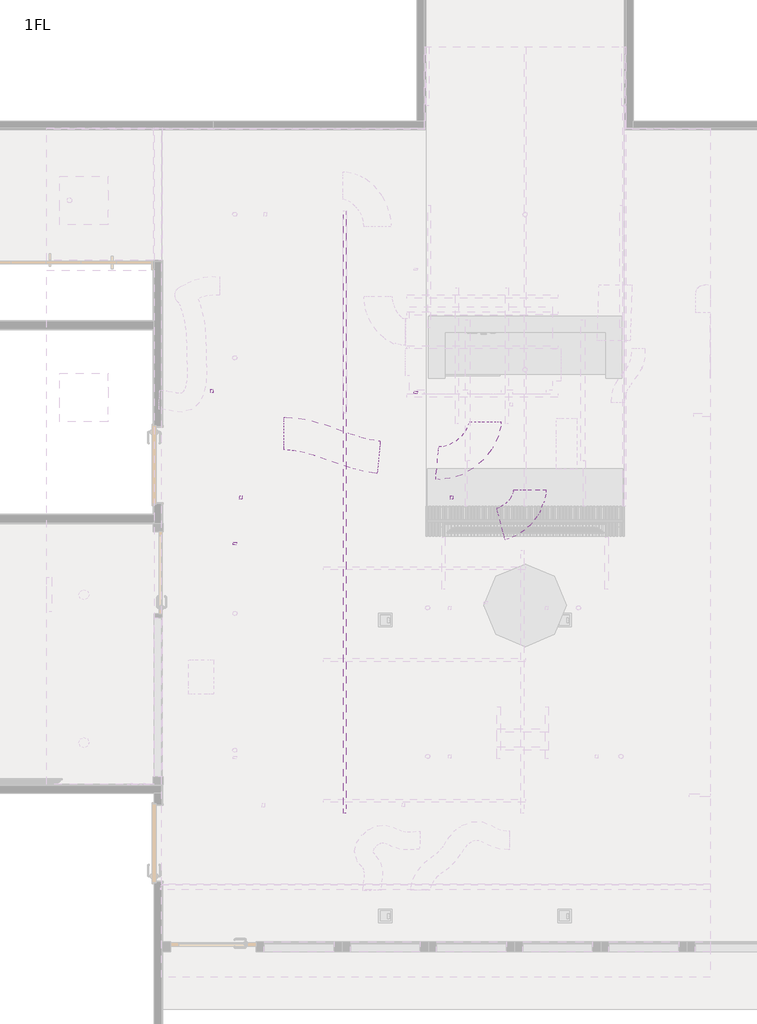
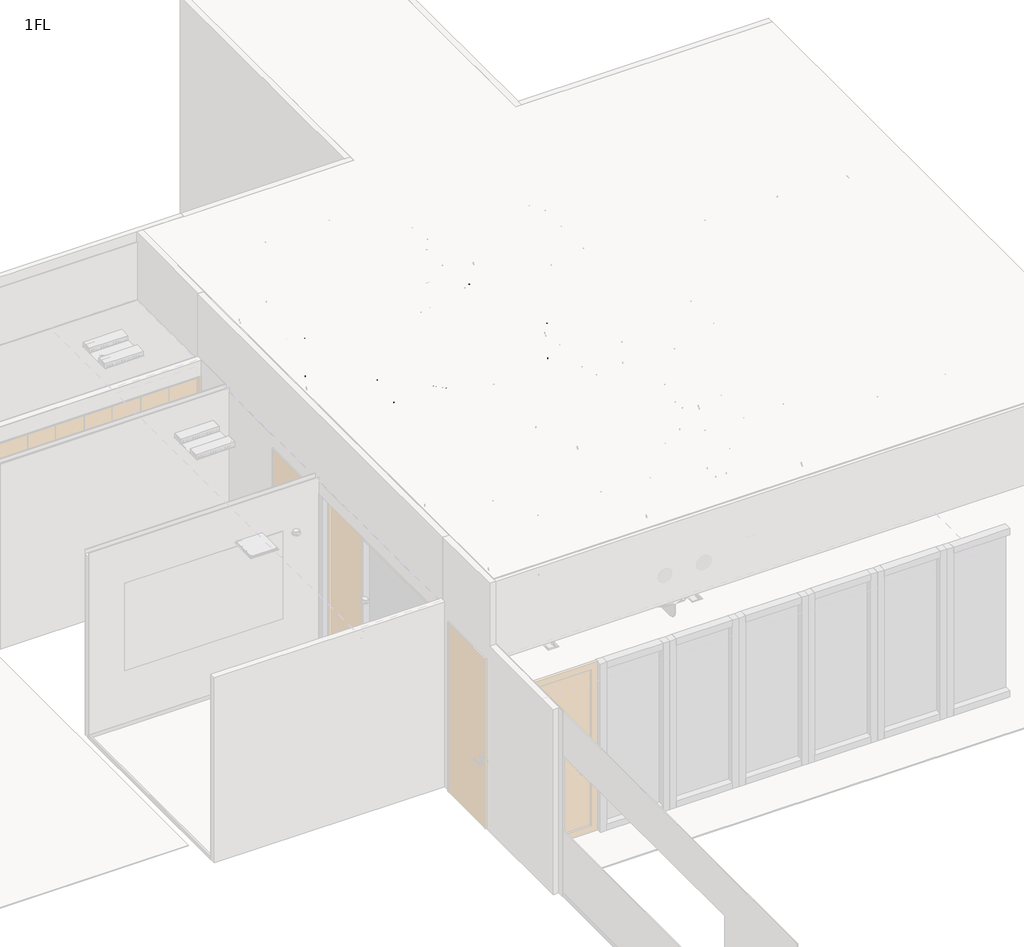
# One storey, part 10 of 13: 5 proxies, 3 duct segments, 1 light fixture, 1 switching device.
"""IFC4 building model written with IfcOpenShell, lengths in millimetres."""

from ifc_helpers import new_model, si_unit, frame, origin, place, context, project, spatial, circle_curve, ellipse_curve, transform, mapped, element, save
from ifc_brep_helpers import plane_surface, cylinder_surface, advanced_brep
from components import duct_hanger_68520e83, duct_hanger_cd86e1ba, duct_hanger_4be9b570, duct_hanger_ef9378de, spot_light_spot_light_b98040ed, outlet_02_outlet_b875fcc4

model = new_model("IFC4")

# Units and contexts
model_context = context("Model", 3, world=origin())
ifc_project = project(units=[si_unit("LENGTHUNIT", "METRE", prefix="MILLI")], contexts=[model_context])

# Site, building, storey
site = spatial("IfcSite", under=ifc_project)
building = spatial("IfcBuilding", under=site)
storey = spatial("IfcBuildingStorey", under=building, Name="1FL", Elevation=500.0)

# Proxies
placement = place(None, origin())
duct_hanger_shape = duct_hanger_68520e83(model_context)
element("IfcBuildingElementProxy", 1, Name="Duct-hanger : Φ44", ObjectType="Duct-hanger : Φ44", at=placement, inside=storey, context=model_context, shape_type="MappedRepresentation", body=[
    mapped(duct_hanger_shape, transform((15125.2199289, 586.3863748, 4470.0), x_axis=(1.0, 0.0, 0.0), y_axis=(0.0, 1.0, 0.0), z_axis=(0.0, 0.0, 1.0))),
])
duct_hanger_2_shape = duct_hanger_cd86e1ba(model_context)
element("IfcBuildingElementProxy", 2, Name="Duct-hanger : Φ44", ObjectType="Duct-hanger : Φ44", at=placement, inside=storey, context=model_context, shape_type="MappedRepresentation", body=[
    mapped(duct_hanger_2_shape, transform((12553.3894845, 586.3863748, 4470.0), x_axis=(1.0, 0.0, 0.0), y_axis=(0.0, 1.0, 0.0), z_axis=(0.0, 0.0, 1.0))),
])
element("IfcBuildingElementProxy", 3, Name="Duct-hanger : Φ44", ObjectType="Duct-hanger : Φ44", at=placement, inside=storey, context=model_context, shape_type="MappedRepresentation", body=[
    mapped(duct_hanger_2_shape, transform((12481.3994332, 28.8857644, 4470.0), x_axis=(0.0, 1.0, 0.0), y_axis=(-1.0, 0.0, 0.0), z_axis=(0.0, 0.0, 1.0))),
])
duct_hanger_3_shape = duct_hanger_4be9b570(model_context)
element("IfcBuildingElementProxy", 4, Name="Duct-hanger : Φ44", ObjectType="Duct-hanger : Φ44", at=placement, inside=storey, context=model_context, shape_type="MappedRepresentation", body=[
    mapped(duct_hanger_3_shape, transform((12202.8615304, 1884.6456521, 4470.0), x_axis=(1.0, 0.0, 0.0), y_axis=(0.0, 1.0, 0.0), z_axis=(0.0, 0.0, 1.0))),
])
duct_hanger_4_shape = duct_hanger_ef9378de(model_context)
element("IfcBuildingElementProxy", 5, Name="Duct-hanger : Φ44", ObjectType="Duct-hanger : Φ44", at=placement, inside=storey, context=model_context, shape_type="MappedRepresentation", body=[
    mapped(duct_hanger_4_shape, transform((14685.8769723, 1867.9842752, 4470.0), x_axis=(0.0, 1.0, 0.0), y_axis=(-1.0, 0.0, 0.0), z_axis=(0.0, 0.0, 1.0))),
])

# Duct segments
element("IfcDuctSegment", 6, ObjectType="フレキシブル - 円形", at=placement, inside=storey, context=model_context, shape_type="AdvancedBrep", body=[
    advanced_brep(
    [(15671.2005465, 459.7186462, 3918.7363576), (15722.9643556, 266.5334809, 3718.7363576), (15774.7281646, 73.3483156, 3918.7363576), (15722.9643556, 266.5334809, 4118.7363576), (15688.3942363, 464.3256814, 3918.7363576), (15730.73451, 268.6154875, 3718.7363576), (15821.017275, 85.7514454, 3918.7363576), (15778.6770012, 281.4616393, 4118.7363576), (15889.500785, 679.3440235, 3783.6697508), (16154.8278307, 679.3440235, 3881.6572949), (16252.8153748, 679.3440235, 3616.3302492), (15987.4883291, 679.3440235, 3518.3427051), (15722.5971361, 479.3727464, 3909.373764), (15754.2210361, 278.9480407, 3712.3072302), (15905.1959076, 122.7846022, 3895.6935649), (15873.5720076, 323.2093078, 4092.7600986), (15782.2678834, 516.6389623, 3880.1537355), (15815.3270843, 317.1106462, 3682.3843526), (16010.9642205, 188.8401648, 3843.9001276), (15977.9050196, 388.3684809, 4041.6695104), (15831.3231287, 562.5209586, 3843.6661773), (15875.6959801, 373.574444, 3637.4816397), (16103.50179, 275.3917332, 3775.0701803), (16059.1289386, 464.3382478, 3981.2547179), (15866.3091232, 612.1260407, 3810.2683278), (15930.5684292, 451.3756436, 3585.100056), (16178.8413918, 382.2123964, 3703.1505243), (16114.5820859, 542.9627935, 3928.318796), (15886.8184112, 662.3127239, 3787.074739), (15970.2504112, 548.4783349, 3540.2244089), (16229.9695085, 507.3240334, 3645.3306473), (16146.5375086, 621.1584224, 3892.1809774), (15889.500785, 675.1385022, 3783.6697508), (15987.4883291, 630.9014919, 3518.3427051), (16252.8153748, 616.5616127, 3616.3302492), (16154.8278307, 660.798623, 3881.6572949)],
    [
        (0, 1, circle_curve(frame((15722.9643556, 266.5334809, 3918.7363576), z_axis=(-0.9659258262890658, -0.25881904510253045, 0.0), x_axis=(-0.25881904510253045, 0.9659258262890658, 0.0)), 200.0)),
        (1, 2, circle_curve(frame((15722.9643556, 266.5334809, 3918.7363576), z_axis=(-0.9659258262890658, -0.25881904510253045, 0.0), x_axis=(-0.25881904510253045, 0.9659258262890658, 0.0)), 200.0)),
        (2, 3, circle_curve(frame((15722.9643556, 266.5334809, 3918.7363576), z_axis=(-0.9659258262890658, -0.25881904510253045, 0.0), x_axis=(-0.25881904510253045, 0.9659258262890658, 0.0)), 200.0)),
        (3, 0, circle_curve(frame((15722.9643556, 266.5334809, 3918.7363576), z_axis=(-0.9659258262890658, -0.25881904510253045, 0.0), x_axis=(-0.25881904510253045, 0.9659258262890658, 0.0)), 200.0)),
        (0, 4),
        (4, 5, ellipse_curve(frame((15754.7057556, 275.0385634, 3918.7363576), z_axis=(-0.9366208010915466, -0.3281192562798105, 0.12279751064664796), x_axis=(-0.2716340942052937, 0.4587626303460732, -0.8460211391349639)), 202.0957871, 200.0)),
        (5, 1),
        (5, 6, ellipse_curve(frame((15754.7057556, 275.0385634, 3918.7363576), z_axis=(-0.9366208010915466, -0.3281192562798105, 0.12279751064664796), x_axis=(-0.2716340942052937, 0.4587626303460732, -0.8460211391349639)), 202.0957871, 200.0)),
        (6, 2),
        (6, 7, ellipse_curve(frame((15754.7057556, 275.0385634, 3918.7363576), z_axis=(-0.9366208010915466, -0.3281192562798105, 0.12279751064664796), x_axis=(-0.2716340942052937, 0.4587626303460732, -0.8460211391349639)), 202.0957871, 200.0)),
        (7, 3),
        (7, 4, ellipse_curve(frame((15754.7057556, 275.0385634, 3918.7363576), z_axis=(-0.9366208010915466, -0.3281192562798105, 0.12279751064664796), x_axis=(-0.2716340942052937, 0.4587626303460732, -0.8460211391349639)), 202.0957871, 200.0)),
        (8, 9, circle_curve(frame((16071.1580799, 679.3440235, 3700.0), z_axis=(0.0, 1.0, 0.0), x_axis=(-0.9082864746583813, 0.0, 0.41834875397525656)), 200.0)),
        (9, 10, circle_curve(frame((16071.1580799, 679.3440235, 3700.0), z_axis=(0.0, 1.0, 0.0), x_axis=(-0.9082864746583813, 0.0, 0.41834875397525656)), 200.0)),
        (10, 11, circle_curve(frame((16071.1580799, 679.3440235, 3700.0), z_axis=(0.0, 1.0, 0.0), x_axis=(-0.9082864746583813, 0.0, 0.41834875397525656)), 200.0)),
        (11, 8, circle_curve(frame((16071.1580799, 679.3440235, 3700.0), z_axis=(0.0, 1.0, 0.0), x_axis=(-0.9082864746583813, 0.0, 0.41834875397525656)), 200.0)),
        (4, 12),
        (12, 13, ellipse_curve(frame((15813.8965218, 301.0786743, 3902.5336644), z_axis=(-0.8398476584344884, -0.44214344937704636, 0.3149048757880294), x_axis=(-0.5203226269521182, 0.4904340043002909, -0.6990985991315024)), 201.0178245, 200.0)),
        (13, 5),
        (13, 14, ellipse_curve(frame((15813.8965218, 301.0786743, 3902.5336644), z_axis=(-0.8398476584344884, -0.44214344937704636, 0.3149048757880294), x_axis=(-0.5203226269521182, 0.4904340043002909, -0.6990985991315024)), 201.0178245, 200.0)),
        (14, 6),
        (14, 15, ellipse_curve(frame((15813.8965218, 301.0786743, 3902.5336644), z_axis=(-0.8398476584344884, -0.44214344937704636, 0.3149048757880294), x_axis=(-0.5203226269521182, 0.4904340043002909, -0.6990985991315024)), 201.0178245, 200.0)),
        (15, 7),
        (15, 12, ellipse_curve(frame((15813.8965218, 301.0786743, 3902.5336644), z_axis=(-0.8398476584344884, -0.44214344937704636, 0.3149048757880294), x_axis=(-0.5203226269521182, 0.4904340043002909, -0.6990985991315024)), 201.0178245, 200.0)),
        (12, 16),
        (16, 17, ellipse_curve(frame((15896.6160519, 352.7395635, 3862.0269315), z_axis=(-0.7162232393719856, -0.5475437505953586, 0.43268939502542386), x_axis=(-0.6976823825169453, 0.5473670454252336, -0.46219975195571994)), 201.036986, 200.0)),
        (17, 13),
        (17, 18, ellipse_curve(frame((15896.6160519, 352.7395635, 3862.0269315), z_axis=(-0.7162232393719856, -0.5475437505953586, 0.43268939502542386), x_axis=(-0.6976823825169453, 0.5473670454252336, -0.46219975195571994)), 201.036986, 200.0)),
        (18, 14),
        (18, 19, ellipse_curve(frame((15896.6160519, 352.7395635, 3862.0269315), z_axis=(-0.7162232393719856, -0.5475437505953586, 0.43268939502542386), x_axis=(-0.6976823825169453, 0.5473670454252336, -0.46219975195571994)), 201.036986, 200.0)),
        (19, 15),
        (19, 16, ellipse_curve(frame((15896.6160519, 352.7395635, 3862.0269315), z_axis=(-0.7162232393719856, -0.5475437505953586, 0.43268939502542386), x_axis=(-0.6976823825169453, 0.5473670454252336, -0.46219975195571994)), 201.036986, 200.0)),
        (16, 20),
        (20, 21, ellipse_curve(frame((15967.4124594, 418.9563459, 3809.3681788), z_axis=(-0.5756820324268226, -0.6607707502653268, 0.48163493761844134), x_axis=(-0.7631302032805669, 0.6457105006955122, -0.026272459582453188)), 200.808039, 200.0)),
        (21, 17),
        (21, 22, ellipse_curve(frame((15967.4124594, 418.9563459, 3809.3681788), z_axis=(-0.5756820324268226, -0.6607707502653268, 0.48163493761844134), x_axis=(-0.7631302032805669, 0.6457105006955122, -0.026272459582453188)), 200.808039, 200.0)),
        (22, 18),
        (22, 23, ellipse_curve(frame((15967.4124594, 418.9563459, 3809.3681788), z_axis=(-0.5756820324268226, -0.6607707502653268, 0.48163493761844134), x_axis=(-0.7631302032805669, 0.6457105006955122, -0.026272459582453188)), 200.808039, 200.0)),
        (23, 19),
        (23, 20, ellipse_curve(frame((15967.4124594, 418.9563459, 3809.3681788), z_axis=(-0.5756820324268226, -0.6607707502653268, 0.48163493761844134), x_axis=(-0.7631302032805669, 0.6457105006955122, -0.026272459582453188)), 200.808039, 200.0)),
        (20, 24),
        (24, 25, ellipse_curve(frame((16022.5752575, 497.1692185, 3756.709426), z_axis=(-0.4291226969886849, -0.7885546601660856, 0.4404943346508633), x_axis=(-0.6971543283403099, 0.5992338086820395, 0.393566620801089)), 201.282924, 200.0)),
        (25, 21),
        (25, 26, ellipse_curve(frame((16022.5752575, 497.1692185, 3756.709426), z_axis=(-0.4291226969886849, -0.7885546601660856, 0.4404943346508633), x_axis=(-0.6971543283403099, 0.5992338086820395, 0.393566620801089)), 201.282924, 200.0)),
        (26, 22),
        (26, 27, ellipse_curve(frame((16022.5752575, 497.1692185, 3756.709426), z_axis=(-0.4291226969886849, -0.7885546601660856, 0.4404943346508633), x_axis=(-0.6971543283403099, 0.5992338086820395, 0.393566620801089)), 201.282924, 200.0)),
        (27, 23),
        (27, 24, ellipse_curve(frame((16022.5752575, 497.1692185, 3756.709426), z_axis=(-0.4291226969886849, -0.7885546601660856, 0.4404943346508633), x_axis=(-0.6971543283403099, 0.5992338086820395, 0.393566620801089)), 201.282924, 200.0)),
        (24, 28),
        (28, 29, ellipse_curve(frame((16058.3939599, 584.8183787, 3716.2026932), z_axis=(-0.27474981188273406, -0.9050959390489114, 0.3245210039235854), x_axis=(-0.6577198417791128, 0.4231063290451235, 0.6232059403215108)), 201.3073019, 200.0)),
        (29, 25),
        (29, 30, ellipse_curve(frame((16058.3939599, 584.8183787, 3716.2026932), z_axis=(-0.27474981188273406, -0.9050959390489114, 0.3245210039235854), x_axis=(-0.6577198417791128, 0.4231063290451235, 0.6232059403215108)), 201.3073019, 200.0)),
        (30, 26),
        (30, 31, ellipse_curve(frame((16058.3939599, 584.8183787, 3716.2026932), z_axis=(-0.27474981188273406, -0.9050959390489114, 0.3245210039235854), x_axis=(-0.6577198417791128, 0.4231063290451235, 0.6232059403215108)), 201.3073019, 200.0)),
        (31, 27),
        (31, 28, ellipse_curve(frame((16058.3939599, 584.8183787, 3716.2026932), z_axis=(-0.27474981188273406, -0.9050959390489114, 0.3245210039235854), x_axis=(-0.6577198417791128, 0.4231063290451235, 0.6232059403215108)), 201.3073019, 200.0)),
        (28, 32),
        (32, 33, ellipse_curve(frame((16071.1580799, 645.8500575, 3700.0), z_axis=(-0.10039504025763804, -0.9867520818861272, 0.12744082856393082), x_axis=(-0.6106251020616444, 0.16223541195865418, 0.7751236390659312)), 202.6851564, 200.0)),
        (33, 29),
        (33, 34, ellipse_curve(frame((16071.1580799, 645.8500575, 3700.0), z_axis=(-0.10039504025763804, -0.9867520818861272, 0.12744082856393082), x_axis=(-0.6106251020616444, 0.16223541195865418, 0.7751236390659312)), 202.6851564, 200.0)),
        (34, 30),
        (34, 35, ellipse_curve(frame((16071.1580799, 645.8500575, 3700.0), z_axis=(-0.10039504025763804, -0.9867520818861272, 0.12744082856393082), x_axis=(-0.6106251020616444, 0.16223541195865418, 0.7751236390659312)), 202.6851564, 200.0)),
        (35, 31),
        (35, 32, ellipse_curve(frame((16071.1580799, 645.8500575, 3700.0), z_axis=(-0.10039504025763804, -0.9867520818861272, 0.12744082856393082), x_axis=(-0.6106251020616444, 0.16223541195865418, 0.7751236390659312)), 202.6851564, 200.0)),
        (32, 8),
        (11, 33),
        (10, 34),
        (9, 35),
    ],
    [
        plane_surface(frame((15722.9643556, 266.5334809, 4118.7363576), z_axis=(-0.9659258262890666, -0.2588190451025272, 0.0), x_axis=(0.2588190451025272, -0.9659258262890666, 0.0))),
        cylinder_surface(frame((15722.9643556, 266.5334809, 3918.7363576), z_axis=(-0.9659258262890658, -0.25881904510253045, 0.0), x_axis=(-0.25881904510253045, 0.9659258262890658, 0.0)), 200.0),
        plane_surface(frame((15871.1580799, 679.3440235, 3700.0), z_axis=(0.0, 1.0, 0.0), x_axis=(0.0, 0.0, 1.0))),
        cylinder_surface(frame((15754.7057556, 275.0385634, 3918.7363576), z_axis=(-0.8878897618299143, -0.3906140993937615, 0.24304813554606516), x_axis=(-0.3984196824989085, 0.9170205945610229, 0.018302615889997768)), 200.0),
        cylinder_surface(frame((15813.8965218, 301.0786743, 3902.5336644), z_axis=(-0.7833006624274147, -0.48919534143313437, 0.38357266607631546), x_axis=(-0.5077329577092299, 0.859471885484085, 0.059290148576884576)), 200.0),
        cylinder_surface(frame((15896.6160519, 352.7395635, 3862.0269315), z_axis=(-0.6417569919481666, -0.6002434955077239, 0.47734233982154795), x_axis=(-0.6241824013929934, 0.7704477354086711, 0.12964033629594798)), 200.0),
        cylinder_surface(frame((15967.4124594, 418.9563459, 3809.3681788), z_axis=(-0.5049740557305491, -0.7159802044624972, 0.4820513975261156), x_axis=(-0.7247188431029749, 0.6550514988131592, 0.21375250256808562)), 200.0),
        cylinder_surface(frame((16022.5752575, 497.1692185, 3756.709426), z_axis=(-0.34780110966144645, -0.8510770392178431, 0.39332208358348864), x_axis=(-0.8203220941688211, 0.47937123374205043, 0.3118892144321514)), 200.0),
        cylinder_surface(frame((16058.3939599, 584.8183787, 3716.2026932), z_axis=(-0.19813002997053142, -0.9473593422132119, 0.2515050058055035), x_axis=(-0.879271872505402, 0.28517563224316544, 0.38151780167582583)), 200.0),
        cylinder_surface(frame((16071.1580799, 645.8500575, 3700.0), z_axis=(0.0, -1.0, 0.0), x_axis=(-0.9082864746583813, 0.0, 0.41834875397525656)), 200.0),
    ],
    [
        (0, [[1, 2, 3, 4]]),
        (1, [[-1, 5, 6, 7]]),
        (1, [[-2, -7, 8, 9]]),
        (1, [[-3, -9, 10, 11]]),
        (1, [[-4, -11, 12, -5]]),
        (2, [[13, 14, 15, 16]]),
        (3, [[-6, 17, 18, 19]]),
        (3, [[-8, -19, 20, 21]]),
        (3, [[-10, -21, 22, 23]]),
        (3, [[-12, -23, 24, -17]]),
        (4, [[-18, 25, 26, 27]]),
        (4, [[-20, -27, 28, 29]]),
        (4, [[-22, -29, 30, 31]]),
        (4, [[-24, -31, 32, -25]]),
        (5, [[-26, 33, 34, 35]]),
        (5, [[-28, -35, 36, 37]]),
        (5, [[-30, -37, 38, 39]]),
        (5, [[-32, -39, 40, -33]]),
        (6, [[-34, 41, 42, 43]]),
        (6, [[-36, -43, 44, 45]]),
        (6, [[-38, -45, 46, 47]]),
        (6, [[-40, -47, 48, -41]]),
        (7, [[-42, 49, 50, 51]]),
        (7, [[-44, -51, 52, 53]]),
        (7, [[-46, -53, 54, 55]]),
        (7, [[-48, -55, 56, -49]]),
        (8, [[-50, 57, 58, 59]]),
        (8, [[-52, -59, 60, 61]]),
        (8, [[-54, -61, 62, 63]]),
        (8, [[-56, -63, 64, -57]]),
        (9, [[-58, 65, -16, 66]]),
        (9, [[-60, -66, -15, 67]]),
        (9, [[-62, -67, -14, 68]]),
        (9, [[-64, -68, -13, -65]]),
    ],
),
])
element("IfcDuctSegment", 7, ObjectType="フレキシブル - 円形", at=placement, inside=storey, context=model_context, shape_type="AdvancedBrep", body=[
    advanced_brep(
    [(14966.2056737, 1209.5914882, 3700.0), (14947.3016332, 1010.4868995, 3500.0), (14928.3975927, 811.3823108, 3700.0), (14947.3016332, 1010.4868995, 3900.0), (14975.8963519, 1208.6714041, 3700.0), (14990.6320809, 1006.3728781, 3500.0), (14976.9755772, 806.7700605, 3700.0), (14962.2398482, 1009.0685865, 3900.0), (15335.9891375, 1508.5994734, 3846.3018978), (15448.2173371, 1508.5994734, 4105.9263019), (15707.8417412, 1508.5994734, 3993.6981022), (15595.6135416, 1508.5994734, 3734.0736981), (15022.8106178, 1213.4264518, 3706.6937774), (15102.1574149, 1017.6766527, 3515.9125533), (15100.884104, 819.3289474, 3717.6794005), (15021.5373069, 1015.0787466, 3908.4606245), (15101.0260312, 1237.92916, 3728.2088085), (15236.4601035, 1059.7499403, 3552.8557388), (15251.1785815, 866.4120166, 3759.0215122), (15115.7445091, 1044.5912363, 3934.3745819), (15178.152159, 1281.4959527, 3758.9983245), (15356.1378479, 1127.353172, 3600.6322827), (15389.3465022, 944.4599278, 3814.1795181), (15211.3608133, 1098.6027085, 3972.5455599), (15247.0181278, 1340.3377582, 3793.0395657), (15455.8833576, 1212.5796776, 3649.9376364), (15509.924462, 1047.486502, 3873.7825917), (15301.0592322, 1175.2445826, 4016.884521), (15298.1503389, 1405.488447, 3822.1512542), (15531.7136413, 1309.1996967, 3693.1109619), (15609.7517818, 1174.6826179, 3930.6184251), (15376.1884795, 1270.9713682, 4059.6587174), (15328.8216577, 1470.9378443, 3841.4610994), (15579.6114183, 1411.4085603, 3723.2661263), (15678.9213186, 1322.2831997, 3974.1657228), (15428.131558, 1381.8124837, 4092.3606959), (15335.9891375, 1502.7142627, 3846.3018978), (15595.6135416, 1482.3526271, 3734.0736981), (15707.8417412, 1450.499459, 3993.6981022), (15448.2173371, 1470.8610947, 4105.9263019)],
    [
        (0, 1, circle_curve(frame((14947.3016332, 1010.4868995, 3700.0), z_axis=(-0.9955229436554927, 0.09452020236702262, 0.0), x_axis=(0.09452020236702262, 0.9955229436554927, 0.0)), 200.0)),
        (1, 2, circle_curve(frame((14947.3016332, 1010.4868995, 3700.0), z_axis=(-0.9955229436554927, 0.09452020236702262, 0.0), x_axis=(0.09452020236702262, 0.9955229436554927, 0.0)), 200.0)),
        (2, 3, circle_curve(frame((14947.3016332, 1010.4868995, 3700.0), z_axis=(-0.9955229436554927, 0.09452020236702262, 0.0), x_axis=(0.09452020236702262, 0.9955229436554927, 0.0)), 200.0)),
        (3, 0, circle_curve(frame((14947.3016332, 1010.4868995, 3700.0), z_axis=(-0.9955229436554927, 0.09452020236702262, 0.0), x_axis=(0.09452020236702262, 0.9955229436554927, 0.0)), 200.0)),
        (0, 4),
        (4, 5, ellipse_curve(frame((14976.4359645, 1007.7207323, 3700.0), z_axis=(-0.9974880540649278, -0.0026785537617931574, -0.07078423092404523), x_axis=(-0.04371595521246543, 0.8095589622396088, 0.5854085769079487)), 201.4567202, 200.0)),
        (5, 1),
        (5, 6, ellipse_curve(frame((14976.4359645, 1007.7207323, 3700.0), z_axis=(-0.9974880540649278, -0.0026785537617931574, -0.07078423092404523), x_axis=(-0.04371595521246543, 0.8095589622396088, 0.5854085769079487)), 201.4567202, 200.0)),
        (6, 2),
        (6, 7, ellipse_curve(frame((14976.4359645, 1007.7207323, 3700.0), z_axis=(-0.9974880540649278, -0.0026785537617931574, -0.07078423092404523), x_axis=(-0.04371595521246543, 0.8095589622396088, 0.5854085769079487)), 201.4567202, 200.0)),
        (7, 3),
        (7, 4, ellipse_curve(frame((14976.4359645, 1007.7207323, 3700.0), z_axis=(-0.9974880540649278, -0.0026785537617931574, -0.07078423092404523), x_axis=(-0.04371595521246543, 0.8095589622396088, 0.5854085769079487)), 201.4567202, 200.0)),
        (8, 9, circle_curve(frame((15521.9154394, 1508.5994734, 3920.0), z_axis=(0.0, 1.0, 0.0), x_axis=(-0.9296315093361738, 0.0, -0.36849051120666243)), 200.0)),
        (9, 10, circle_curve(frame((15521.9154394, 1508.5994734, 3920.0), z_axis=(0.0, 1.0, 0.0), x_axis=(-0.9296315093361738, 0.0, -0.36849051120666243)), 200.0)),
        (10, 11, circle_curve(frame((15521.9154394, 1508.5994734, 3920.0), z_axis=(0.0, 1.0, 0.0), x_axis=(-0.9296315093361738, 0.0, -0.36849051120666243)), 200.0)),
        (11, 8, circle_curve(frame((15521.9154394, 1508.5994734, 3920.0), z_axis=(0.0, 1.0, 0.0), x_axis=(-0.9296315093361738, 0.0, -0.36849051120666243)), 200.0)),
        (4, 12),
        (12, 13, ellipse_curve(frame((15061.8473609, 1016.3776996, 3712.1865889), z_axis=(-0.9603413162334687, -0.1957843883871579, -0.19852715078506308), x_axis=(-0.27061980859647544, 0.8259550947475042, 0.49453321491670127)), 201.326436, 200.0)),
        (13, 5),
        (13, 14, ellipse_curve(frame((15061.8473609, 1016.3776996, 3712.1865889), z_axis=(-0.9603413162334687, -0.1957843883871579, -0.19852715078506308), x_axis=(-0.27061980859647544, 0.8259550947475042, 0.49453321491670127)), 201.326436, 200.0)),
        (14, 6),
        (14, 15, ellipse_curve(frame((15061.8473609, 1016.3776996, 3712.1865889), z_axis=(-0.9603413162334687, -0.1957843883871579, -0.19852715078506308), x_axis=(-0.27061980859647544, 0.8259550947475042, 0.49453321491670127)), 201.326436, 200.0)),
        (15, 7),
        (15, 12, ellipse_curve(frame((15061.8473609, 1016.3776996, 3712.1865889), z_axis=(-0.9603413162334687, -0.1957843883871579, -0.19852715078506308), x_axis=(-0.27061980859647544, 0.8259550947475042, 0.49453321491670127)), 201.326436, 200.0)),
        (12, 16),
        (16, 17, ellipse_curve(frame((15176.1023063, 1052.1705883, 3743.6151603), z_axis=(-0.8778216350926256, -0.3790658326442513, -0.29281098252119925), x_axis=(-0.4667802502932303, 0.8141271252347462, 0.345417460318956)), 201.1708649, 200.0)),
        (17, 13),
        (17, 18, ellipse_curve(frame((15176.1023063, 1052.1705883, 3743.6151603), z_axis=(-0.8778216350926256, -0.3790658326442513, -0.29281098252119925), x_axis=(-0.4667802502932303, 0.8141271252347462, 0.345417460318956)), 201.1708649, 200.0)),
        (18, 14),
        (18, 19, ellipse_curve(frame((15176.1023063, 1052.1705883, 3743.6151603), z_axis=(-0.8778216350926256, -0.3790658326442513, -0.29281098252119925), x_axis=(-0.4667802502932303, 0.8141271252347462, 0.345417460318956)), 201.1708649, 200.0)),
        (19, 15),
        (19, 16, ellipse_curve(frame((15176.1023063, 1052.1705883, 3743.6151603), z_axis=(-0.8778216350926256, -0.3790658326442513, -0.29281098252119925), x_axis=(-0.4667802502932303, 0.8141271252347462, 0.345417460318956)), 201.1708649, 200.0)),
        (16, 20),
        (20, 21, ellipse_curve(frame((15283.7493306, 1112.9779402, 3786.5889213), z_axis=(-0.7702731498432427, -0.5385798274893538, -0.3414835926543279), x_axis=(-0.6058835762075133, 0.7851246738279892, 0.12839134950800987)), 200.8405845, 200.0)),
        (21, 17),
        (21, 22, ellipse_curve(frame((15283.7493306, 1112.9779402, 3786.5889213), z_axis=(-0.7702731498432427, -0.5385798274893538, -0.3414835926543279), x_axis=(-0.6058835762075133, 0.7851246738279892, 0.12839134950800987)), 200.8405845, 200.0)),
        (22, 18),
        (22, 23, ellipse_curve(frame((15283.7493306, 1112.9779402, 3786.5889213), z_axis=(-0.7702731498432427, -0.5385798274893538, -0.3414835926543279), x_axis=(-0.6058835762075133, 0.7851246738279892, 0.12839134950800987)), 200.8405845, 200.0)),
        (23, 19),
        (23, 20, ellipse_curve(frame((15283.7493306, 1112.9779402, 3786.5889213), z_axis=(-0.7702731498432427, -0.5385798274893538, -0.3414835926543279), x_axis=(-0.6058835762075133, 0.7851246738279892, 0.12839134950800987)), 200.8405845, 200.0)),
        (20, 24),
        (24, 25, ellipse_curve(frame((15378.4712949, 1193.9121301, 3833.4110787), z_axis=(-0.6499209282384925, -0.6780923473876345, -0.34321065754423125), x_axis=(-0.689948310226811, 0.7158003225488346, -0.10770899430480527)), 200.8827209, 200.0)),
        (25, 21),
        (25, 26, ellipse_curve(frame((15378.4712949, 1193.9121301, 3833.4110787), z_axis=(-0.6499209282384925, -0.6780923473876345, -0.34321065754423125), x_axis=(-0.689948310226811, 0.7158003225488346, -0.10770899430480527)), 200.8827209, 200.0)),
        (26, 22),
        (26, 27, ellipse_curve(frame((15378.4712949, 1193.9121301, 3833.4110787), z_axis=(-0.6499209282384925, -0.6780923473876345, -0.34321065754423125), x_axis=(-0.689948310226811, 0.7158003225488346, -0.10770899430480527)), 200.8827209, 200.0)),
        (27, 23),
        (27, 24, ellipse_curve(frame((15378.4712949, 1193.9121301, 3833.4110787), z_axis=(-0.6499209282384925, -0.6780923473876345, -0.34321065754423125), x_axis=(-0.689948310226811, 0.7158003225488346, -0.10770899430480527)), 200.8827209, 200.0)),
        (24, 28),
        (28, 29, ellipse_curve(frame((15453.9510604, 1290.0855324, 3876.3848397), z_axis=(-0.4995154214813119, -0.8138673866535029, -0.2968235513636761), x_axis=(-0.7509490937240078, 0.5776217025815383, -0.32004472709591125)), 201.3322225, 200.0)),
        (29, 25),
        (29, 30, ellipse_curve(frame((15453.9510604, 1290.0855324, 3876.3848397), z_axis=(-0.4995154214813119, -0.8138673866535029, -0.2968235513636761), x_axis=(-0.7509490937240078, 0.5776217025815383, -0.32004472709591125)), 201.3322225, 200.0)),
        (30, 26),
        (30, 31, ellipse_curve(frame((15453.9510604, 1290.0855324, 3876.3848397), z_axis=(-0.4995154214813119, -0.8138673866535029, -0.2968235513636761), x_axis=(-0.7509490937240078, 0.5776217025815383, -0.32004472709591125)), 201.3322225, 200.0)),
        (31, 27),
        (31, 28, ellipse_curve(frame((15453.9510604, 1290.0855324, 3876.3848397), z_axis=(-0.4995154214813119, -0.8138673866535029, -0.2968235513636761), x_axis=(-0.7509490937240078, 0.5776217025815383, -0.32004472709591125)), 201.3322225, 200.0)),
        (28, 32),
        (32, 33, ellipse_curve(frame((15503.8714882, 1396.610522, 3907.8134111), z_axis=(-0.31608104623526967, -0.9265363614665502, -0.20401750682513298), x_axis=(-0.8024091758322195, 0.37581286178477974, -0.4635776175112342)), 201.4518367, 200.0)),
        (33, 29),
        (33, 34, ellipse_curve(frame((15503.8714882, 1396.610522, 3907.8134111), z_axis=(-0.31608104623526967, -0.9265363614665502, -0.20401750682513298), x_axis=(-0.8024091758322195, 0.37581286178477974, -0.4635776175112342)), 201.4518367, 200.0)),
        (34, 30),
        (34, 35, ellipse_curve(frame((15503.8714882, 1396.610522, 3907.8134111), z_axis=(-0.31608104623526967, -0.9265363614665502, -0.20401750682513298), x_axis=(-0.8024091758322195, 0.37581286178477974, -0.4635776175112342)), 201.4518367, 200.0)),
        (35, 31),
        (35, 32, ellipse_curve(frame((15503.8714882, 1396.610522, 3907.8134111), z_axis=(-0.31608104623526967, -0.9265363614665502, -0.20401750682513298), x_axis=(-0.8024091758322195, 0.37581286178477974, -0.4635776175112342)), 201.4518367, 200.0)),
        (32, 36),
        (36, 37, ellipse_curve(frame((15521.9154394, 1476.6068609, 3920.0), z_axis=(-0.10978865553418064, -0.991185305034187, -0.07414945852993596), x_axis=(-0.821396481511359, 0.13248279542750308, -0.5547577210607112)), 201.778617, 200.0)),
        (37, 33),
        (37, 38, ellipse_curve(frame((15521.9154394, 1476.6068609, 3920.0), z_axis=(-0.10978865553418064, -0.991185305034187, -0.07414945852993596), x_axis=(-0.821396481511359, 0.13248279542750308, -0.5547577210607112)), 201.778617, 200.0)),
        (38, 34),
        (38, 39, ellipse_curve(frame((15521.9154394, 1476.6068609, 3920.0), z_axis=(-0.10978865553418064, -0.991185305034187, -0.07414945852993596), x_axis=(-0.821396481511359, 0.13248279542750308, -0.5547577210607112)), 201.778617, 200.0)),
        (39, 35),
        (39, 36, ellipse_curve(frame((15521.9154394, 1476.6068609, 3920.0), z_axis=(-0.10978865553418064, -0.991185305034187, -0.07414945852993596), x_axis=(-0.821396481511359, 0.13248279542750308, -0.5547577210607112)), 201.778617, 200.0)),
        (36, 8),
        (11, 37),
        (10, 38),
        (9, 39),
    ],
    [
        plane_surface(frame((14947.3016332, 1010.4868995, 3500.0), z_axis=(-0.9955229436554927, 0.09452020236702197, 0.0), x_axis=(0.09452020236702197, 0.9955229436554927, 0.0))),
        cylinder_surface(frame((14947.3016332, 1010.4868995, 3700.0), z_axis=(-0.9955229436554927, 0.09452020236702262, 0.0), x_axis=(0.09452020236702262, 0.9955229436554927, 0.0)), 200.0),
        plane_surface(frame((15321.9154394, 1508.5994734, 3920.0), z_axis=(0.0, 1.0, 0.0), x_axis=(0.0, 0.0, 1.0))),
        cylinder_surface(frame((14976.4359645, 1007.7207323, 3700.0), z_axis=(-0.9850276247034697, -0.09983857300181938, -0.14054478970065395), x_axis=(-0.09889140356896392, 0.9950035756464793, -0.013724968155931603)), 200.0),
        cylinder_surface(frame((15061.8473609, 1016.3776996, 3712.1865889), z_axis=(-0.923000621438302, -0.28915035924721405, -0.25389352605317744), x_axis=(-0.2854125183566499, 0.9569775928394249, -0.052283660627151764)), 200.0),
        cylinder_surface(frame((15176.1023063, 1052.1705883, 3743.6151603), z_axis=(-0.8224243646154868, -0.4645687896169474, -0.3283199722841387), x_axis=(-0.45554663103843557, 0.8835093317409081, -0.10903452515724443)), 200.0),
        cylinder_surface(frame((15283.7493306, 1112.9779402, 3786.5889213), z_axis=(-0.7116742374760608, -0.6080825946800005, -0.35178876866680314), x_axis=(-0.5906702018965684, 0.7890300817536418, -0.16893857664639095)), 200.0),
        cylinder_surface(frame((15378.4712949, 1193.9121301, 3833.4110787), z_axis=(-0.5824558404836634, -0.7421427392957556, -0.3316162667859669), x_axis=(-0.7117697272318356, 0.6626813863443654, -0.23288889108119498)), 200.0),
        cylinder_surface(frame((15453.9510604, 1290.0855324, 3876.3848397), z_axis=(-0.40996437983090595, -0.8748212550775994, -0.2581026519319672), x_axis=(-0.8263265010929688, 0.4760324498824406, -0.3009611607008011)), 200.0),
        cylinder_surface(frame((15503.8714882, 1396.610522, 3907.8134111), z_axis=(-0.21764180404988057, -0.9648966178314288, -0.14699170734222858), x_axis=(-0.9012211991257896, 0.25649172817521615, -0.34930265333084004)), 200.0),
        cylinder_surface(frame((15521.9154394, 1476.6068609, 3920.0), z_axis=(0.0, -1.0000000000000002, 0.0), x_axis=(-0.9296315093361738, 0.0, -0.36849051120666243)), 200.0),
    ],
    [
        (0, [[1, 2, 3, 4]]),
        (1, [[-1, 5, 6, 7]]),
        (1, [[-2, -7, 8, 9]]),
        (1, [[-3, -9, 10, 11]]),
        (1, [[-4, -11, 12, -5]]),
        (2, [[13, 14, 15, 16]]),
        (3, [[-6, 17, 18, 19]]),
        (3, [[-8, -19, 20, 21]]),
        (3, [[-10, -21, 22, 23]]),
        (3, [[-12, -23, 24, -17]]),
        (4, [[-18, 25, 26, 27]]),
        (4, [[-20, -27, 28, 29]]),
        (4, [[-22, -29, 30, 31]]),
        (4, [[-24, -31, 32, -25]]),
        (5, [[-26, 33, 34, 35]]),
        (5, [[-28, -35, 36, 37]]),
        (5, [[-30, -37, 38, 39]]),
        (5, [[-32, -39, 40, -33]]),
        (6, [[-34, 41, 42, 43]]),
        (6, [[-36, -43, 44, 45]]),
        (6, [[-38, -45, 46, 47]]),
        (6, [[-40, -47, 48, -41]]),
        (7, [[-42, 49, 50, 51]]),
        (7, [[-44, -51, 52, 53]]),
        (7, [[-46, -53, 54, 55]]),
        (7, [[-48, -55, 56, -49]]),
        (8, [[-50, 57, 58, 59]]),
        (8, [[-52, -59, 60, 61]]),
        (8, [[-54, -61, 62, 63]]),
        (8, [[-56, -63, 64, -57]]),
        (9, [[-58, 65, 66, 67]]),
        (9, [[-60, -67, 68, 69]]),
        (9, [[-62, -69, 70, 71]]),
        (9, [[-64, -71, 72, -65]]),
        (10, [[-66, 73, -16, 74]]),
        (10, [[-68, -74, -15, 75]]),
        (10, [[-70, -75, -14, 76]]),
        (10, [[-72, -76, -13, -73]]),
    ],
),
])
element("IfcDuctSegment", 8, ObjectType="フレキシブル - 円形", at=placement, inside=storey, context=model_context, shape_type="AdvancedBrep", body=[
    advanced_brep(
    [(13078.2240856, 1567.1722506, 4010.0), (13078.2240856, 1367.1722506, 3810.0), (13078.2240856, 1167.1722506, 4010.0), (13078.2240856, 1367.1722506, 4210.0), (13103.8883268, 1567.1722506, 4010.0), (13085.8251146, 1367.1722506, 3810.0), (13087.6921633, 1167.1722506, 4010.0), (13105.7553755, 1367.1722506, 4210.0), (14252.6073024, 1277.2879182, 3695.2626841), (14234.1563378, 1082.9552981, 3899.9438867), (14214.8098291, 879.1904648, 3704.7373159), (14233.2607937, 1073.5230848, 3500.0561133), (13256.1168846, 1554.7936321, 3994.767436), (13195.6936665, 1358.2381787, 3799.006138), (13201.7000654, 1157.9015832, 3998.591939), (13262.1232835, 1354.4570367, 4194.353237), (13420.0999152, 1522.258395, 3955.189392), (13319.3299399, 1333.7079852, 3769.1659659), (13328.7179161, 1132.7004641, 3967.935608), (13429.4878914, 1321.250874, 4153.9590341), (13573.6432608, 1477.386459, 3901.5109389), (13448.6783563, 1295.9068428, 3723.9460126), (13459.2061232, 1094.5662262, 3922.3171861), (13584.1710277, 1276.0458423, 4099.8821124), (13718.7900285, 1426.9486746, 3842.6015126), (13584.9875033, 1248.540088, 3668.6234328), (13594.5201485, 1047.5452711, 3867.3984874), (13728.3226738, 1225.9538578, 4041.3765672), (13857.9761038, 1376.7472599, 3786.0765956), (13729.1645613, 1196.5385334, 3610.0716256), (13735.6226756, 996.6526336, 3810.0952794), (13864.4342181, 1176.86136, 3986.1002494), (13992.6338744, 1332.1429298, 3738.9147286), (13883.4839865, 1145.4214346, 3556.0235586), (13884.4798855, 947.3448507, 3757.9602714), (13993.6297735, 1134.066346, 3940.8514414), (14124.1704866, 1297.7273686, 3707.073569), (14050.0871974, 1101.8309626, 3515.693803), (14043.0832011, 905.8474909, 3719.567056), (14117.1664903, 1101.743897, 3910.946822), (14241.825025, 1278.3116445, 3695.2626841), (14205.8625846, 1076.1244154, 3500.0561133), (14190.8101708, 881.469119, 3704.7373159), (14226.7726112, 1083.6563481, 3899.9438867)],
    [
        (0, 1, circle_curve(frame((13078.2240856, 1367.1722506, 4010.0), z_axis=(-1.0, 0.0, 0.0), x_axis=(0.0, 1.0, 0.0)), 200.0)),
        (1, 2, circle_curve(frame((13078.2240856, 1367.1722506, 4010.0), z_axis=(-1.0, 0.0, 0.0), x_axis=(0.0, 1.0, 0.0)), 200.0)),
        (2, 3, circle_curve(frame((13078.2240856, 1367.1722506, 4010.0), z_axis=(-1.0, 0.0, 0.0), x_axis=(0.0, 1.0, 0.0)), 200.0)),
        (3, 0, circle_curve(frame((13078.2240856, 1367.1722506, 4010.0), z_axis=(-1.0, 0.0, 0.0), x_axis=(0.0, 1.0, 0.0)), 200.0)),
        (0, 4),
        (4, 5, ellipse_curve(frame((13095.790245, 1367.1722506, 4010.0), z_axis=(-0.9979453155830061, 0.0404072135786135, 0.04972327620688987), x_axis=(-0.06407142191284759, -0.6293631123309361, -0.7744655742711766)), 200.411783, 200.0)),
        (5, 1),
        (5, 6, ellipse_curve(frame((13095.790245, 1367.1722506, 4010.0), z_axis=(-0.9979453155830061, 0.0404072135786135, 0.04972327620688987), x_axis=(-0.06407142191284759, -0.6293631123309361, -0.7744655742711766)), 200.411783, 200.0)),
        (6, 2),
        (6, 7, ellipse_curve(frame((13095.790245, 1367.1722506, 4010.0), z_axis=(-0.9979453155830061, 0.0404072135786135, 0.04972327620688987), x_axis=(-0.06407142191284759, -0.6293631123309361, -0.7744655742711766)), 200.411783, 200.0)),
        (7, 3),
        (7, 4, ellipse_curve(frame((13095.790245, 1367.1722506, 4010.0), z_axis=(-0.9979453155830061, 0.0404072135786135, 0.04972327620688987), x_axis=(-0.06407142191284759, -0.6293631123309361, -0.7744655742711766)), 200.411783, 200.0)),
        (8, 9, circle_curve(frame((14233.7085658, 1078.2391915, 3700.0), z_axis=(0.9955229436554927, -0.09452020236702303, 0.0), x_axis=(0.09449368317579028, 0.9952436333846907, -0.02368657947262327)), 200.0)),
        (9, 10, circle_curve(frame((14233.7085658, 1078.2391915, 3700.0), z_axis=(0.9955229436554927, -0.09452020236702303, 0.0), x_axis=(0.09449368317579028, 0.9952436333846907, -0.02368657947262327)), 200.0)),
        (10, 11, circle_curve(frame((14233.7085658, 1078.2391915, 3700.0), z_axis=(0.9955229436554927, -0.09452020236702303, 0.0), x_axis=(0.09449368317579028, 0.9952436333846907, -0.02368657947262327)), 200.0)),
        (11, 8, circle_curve(frame((14233.7085658, 1078.2391915, 3700.0), z_axis=(0.9955229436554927, -0.09452020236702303, 0.0), x_axis=(0.09449368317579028, 0.9952436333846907, -0.02368657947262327)), 200.0)),
        (4, 12),
        (12, 13, ellipse_curve(frame((13228.908475, 1356.3476077, 3996.6796875), z_axis=(-0.9768635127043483, 0.13552934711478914, 0.16543721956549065), x_axis=(-0.21386010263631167, -0.6235259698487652, -0.7519835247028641)), 200.7645606, 200.0)),
        (13, 5),
        (13, 14, ellipse_curve(frame((13228.908475, 1356.3476077, 3996.6796875), z_axis=(-0.9768635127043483, 0.13552934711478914, 0.16543721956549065), x_axis=(-0.21386010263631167, -0.6235259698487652, -0.7519835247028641)), 200.7645606, 200.0)),
        (14, 6),
        (14, 15, ellipse_curve(frame((13228.908475, 1356.3476077, 3996.6796875), z_axis=(-0.9768635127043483, 0.13552934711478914, 0.16543721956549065), x_axis=(-0.21386010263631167, -0.6235259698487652, -0.7519835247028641)), 200.7645606, 200.0)),
        (15, 7),
        (15, 12, ellipse_curve(frame((13228.908475, 1356.3476077, 3996.6796875), z_axis=(-0.9768635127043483, 0.13552934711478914, 0.16543721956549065), x_axis=(-0.21386010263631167, -0.6235259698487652, -0.7519835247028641)), 200.7645606, 200.0)),
        (12, 16),
        (16, 17, ellipse_curve(frame((13374.4089156, 1327.4794296, 3961.5625), z_axis=(-0.9340574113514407, 0.2281008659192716, 0.27478491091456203), x_axis=(-0.3570292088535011, -0.6140650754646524, -0.703885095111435)), 200.3897306, 200.0)),
        (17, 13),
        (17, 18, ellipse_curve(frame((13374.4089156, 1327.4794296, 3961.5625), z_axis=(-0.9340574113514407, 0.2281008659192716, 0.27478491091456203), x_axis=(-0.3570292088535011, -0.6140650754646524, -0.703885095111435)), 200.3897306, 200.0)),
        (18, 14),
        (18, 19, ellipse_curve(frame((13374.4089156, 1327.4794296, 3961.5625), z_axis=(-0.9340574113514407, 0.2281008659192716, 0.27478491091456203), x_axis=(-0.3570292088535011, -0.6140650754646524, -0.703885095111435)), 200.3897306, 200.0)),
        (19, 15),
        (19, 16, ellipse_curve(frame((13374.4089156, 1327.4794296, 3961.5625), z_axis=(-0.9340574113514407, 0.2281008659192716, 0.27478491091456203), x_axis=(-0.3570292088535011, -0.6140650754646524, -0.703885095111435)), 200.3897306, 200.0)),
        (16, 20),
        (20, 21, ellipse_curve(frame((13516.424692, 1285.9763426, 3911.9140625), z_axis=(-0.8964417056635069, 0.2863570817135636, 0.3382187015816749), x_axis=(-0.4416628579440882, -0.6400088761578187, -0.6287468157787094)), 200.100452, 200.0)),
        (21, 17),
        (21, 22, ellipse_curve(frame((13516.424692, 1285.9763426, 3911.9140625), z_axis=(-0.8964417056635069, 0.2863570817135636, 0.3382187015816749), x_axis=(-0.4416628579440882, -0.6400088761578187, -0.6287468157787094)), 200.100452, 200.0)),
        (22, 18),
        (22, 23, ellipse_curve(frame((13516.424692, 1285.9763426, 3911.9140625), z_axis=(-0.8964417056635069, 0.2863570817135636, 0.3382187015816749), x_axis=(-0.4416628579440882, -0.6400088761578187, -0.6287468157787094)), 200.100452, 200.0)),
        (23, 19),
        (23, 20, ellipse_curve(frame((13516.424692, 1285.9763426, 3911.9140625), z_axis=(-0.8964417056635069, 0.2863570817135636, 0.3382187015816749), x_axis=(-0.4416628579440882, -0.6400088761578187, -0.6287468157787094)), 200.100452, 200.0)),
        (20, 24),
        (24, 25, ellipse_curve(frame((13656.6550885, 1237.2469729, 3855.0), z_axis=(-0.8803850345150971, 0.31172194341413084, 0.35742358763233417), x_axis=(-0.2957297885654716, -0.950011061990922, 0.10011430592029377)), 200.0030273, 200.0)),
        (25, 21),
        (25, 26, ellipse_curve(frame((13656.6550885, 1237.2469729, 3855.0), z_axis=(-0.8803850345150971, 0.31172194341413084, 0.35742358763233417), x_axis=(-0.2957297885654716, -0.950011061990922, 0.10011430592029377)), 200.0030273, 200.0)),
        (26, 22),
        (26, 27, ellipse_curve(frame((13656.6550885, 1237.2469729, 3855.0), z_axis=(-0.8803850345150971, 0.31172194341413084, 0.35742358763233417), x_axis=(-0.2957297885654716, -0.950011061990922, 0.10011430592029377)), 200.0030273, 200.0)),
        (27, 23),
        (27, 24, ellipse_curve(frame((13656.6550885, 1237.2469729, 3855.0), z_axis=(-0.8803850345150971, 0.31172194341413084, 0.35742358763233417), x_axis=(-0.2957297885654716, -0.950011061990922, 0.10011430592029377)), 200.0030273, 200.0)),
        (24, 28),
        (28, 29, ellipse_curve(frame((13796.7993897, 1186.6999467, 3798.0859375), z_axis=(-0.8900534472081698, 0.30776081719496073, 0.3362858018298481), x_axis=(0.43730009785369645, 0.3681050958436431, 0.820528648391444)), 200.0636027, 200.0)),
        (29, 25),
        (29, 30, ellipse_curve(frame((13796.7993897, 1186.6999467, 3798.0859375), z_axis=(-0.8900534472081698, 0.30776081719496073, 0.3362858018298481), x_axis=(0.43730009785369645, 0.3681050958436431, 0.820528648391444)), 200.0636027, 200.0)),
        (30, 26),
        (30, 31, ellipse_curve(frame((13796.7993897, 1186.6999467, 3798.0859375), z_axis=(-0.8900534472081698, 0.30776081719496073, 0.3362858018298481), x_axis=(0.43730009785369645, 0.3681050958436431, 0.820528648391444)), 200.0636027, 200.0)),
        (31, 27),
        (31, 28, ellipse_curve(frame((13796.7993897, 1186.6999467, 3798.0859375), z_axis=(-0.8900534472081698, 0.30776081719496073, 0.3362858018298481), x_axis=(0.43730009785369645, 0.3681050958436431, 0.820528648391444)), 200.0636027, 200.0)),
        (28, 32),
        (32, 33, ellipse_curve(frame((13938.55688, 1139.7438903, 3748.4375), z_axis=(-0.9227627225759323, 0.2728287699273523, 0.2721643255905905), x_axis=(0.37502459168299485, 0.47321816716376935, 0.7971330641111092)), 200.3017171, 200.0)),
        (33, 29),
        (33, 34, ellipse_curve(frame((13938.55688, 1139.7438903, 3748.4375), z_axis=(-0.9227627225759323, 0.2728287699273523, 0.2721643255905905), x_axis=(0.37502459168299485, 0.47321816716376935, 0.7971330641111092)), 200.3017171, 200.0)),
        (34, 30),
        (34, 35, ellipse_curve(frame((13938.55688, 1139.7438903, 3748.4375), z_axis=(-0.9227627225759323, 0.2728287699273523, 0.2721643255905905), x_axis=(0.37502459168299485, 0.47321816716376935, 0.7971330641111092)), 200.3017171, 200.0)),
        (35, 31),
        (35, 32, ellipse_curve(frame((13938.55688, 1139.7438903, 3748.4375), z_axis=(-0.9227627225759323, 0.2728287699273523, 0.2721643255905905), x_axis=(0.37502459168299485, 0.47321816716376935, 0.7971330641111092)), 200.3017171, 200.0)),
        (32, 36),
        (36, 37, ellipse_curve(frame((14083.6268438, 1101.7874298, 3713.3203125), z_axis=(-0.964978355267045, 0.20489462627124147, 0.16381381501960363), x_axis=(0.2499838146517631, 0.5289199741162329, 0.8110189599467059)), 200.6400146, 200.0)),
        (37, 33),
        (37, 38, ellipse_curve(frame((14083.6268438, 1101.7874298, 3713.3203125), z_axis=(-0.964978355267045, 0.20489462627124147, 0.16381381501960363), x_axis=(0.2499838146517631, 0.5289199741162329, 0.8110189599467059)), 200.6400146, 200.0)),
        (38, 34),
        (38, 39, ellipse_curve(frame((14083.6268438, 1101.7874298, 3713.3203125), z_axis=(-0.964978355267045, 0.20489462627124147, 0.16381381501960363), x_axis=(0.2499838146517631, 0.5289199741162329, 0.8110189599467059)), 200.6400146, 200.0)),
        (39, 35),
        (39, 36, ellipse_curve(frame((14083.6268438, 1101.7874298, 3713.3203125), z_axis=(-0.964978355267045, 0.20489462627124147, 0.16381381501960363), x_axis=(0.2499838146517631, 0.5289199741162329, 0.8110189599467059)), 200.6400146, 200.0)),
        (36, 40),
        (40, 41, ellipse_curve(frame((14216.3175979, 1079.8903817, 3700.0), z_axis=(-0.9904789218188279, 0.12850667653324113, 0.0493714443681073), x_axis=(0.11369717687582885, 0.5614146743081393, 0.8196868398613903)), 200.3624619, 200.0)),
        (41, 37),
        (41, 42, ellipse_curve(frame((14216.3175979, 1079.8903817, 3700.0), z_axis=(-0.9904789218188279, 0.12850667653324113, 0.0493714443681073), x_axis=(0.11369717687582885, 0.5614146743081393, 0.8196868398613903)), 200.3624619, 200.0)),
        (42, 38),
        (42, 43, ellipse_curve(frame((14216.3175979, 1079.8903817, 3700.0), z_axis=(-0.9904789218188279, 0.12850667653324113, 0.0493714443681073), x_axis=(0.11369717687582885, 0.5614146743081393, 0.8196868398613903)), 200.3624619, 200.0)),
        (43, 39),
        (43, 40, ellipse_curve(frame((14216.3175979, 1079.8903817, 3700.0), z_axis=(-0.9904789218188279, 0.12850667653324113, 0.0493714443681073), x_axis=(0.11369717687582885, 0.5614146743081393, 0.8196868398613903)), 200.3624619, 200.0)),
        (40, 8),
        (11, 41),
        (10, 42),
        (9, 43),
    ],
    [
        plane_surface(frame((13078.2240856, 1367.1722506, 3810.0), z_axis=(-1.0, 0.0, 0.0), x_axis=(0.0, 1.0, 0.0))),
        cylinder_surface(frame((13078.2240856, 1367.1722506, 4010.0), z_axis=(-1.0, 0.0, 0.0), x_axis=(0.0, 1.0, 0.0)), 200.0),
        plane_surface(frame((14233.7085658, 1078.2391915, 3500.0), z_axis=(0.9955229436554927, -0.09452020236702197, 0.0), x_axis=(0.09452020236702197, 0.9955229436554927, 0.0))),
        cylinder_surface(frame((13095.790245, 1367.1722506, 4010.0), z_axis=(-0.9917897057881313, 0.08064837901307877, 0.09924222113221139), x_axis=(0.08064837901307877, 0.9967345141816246, -0.00401835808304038)), 200.0),
        cylinder_surface(frame((13228.908475, 1356.3476077, 3996.6796875), z_axis=(-0.9544970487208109, 0.18937805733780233, 0.2303721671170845), x_axis=(0.18935283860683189, 0.9816529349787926, -0.022428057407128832)), 200.0),
        cylinder_surface(frame((13374.4089156, 1327.4794296, 3961.5625), z_axis=(-0.9099845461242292, 0.26593642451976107, 0.31812881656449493), x_axis=(0.26573364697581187, 0.9630004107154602, -0.04489808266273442)), 200.0),
        cylinder_surface(frame((13516.424692, 1285.9763426, 3911.9140625), z_axis=(-0.8819988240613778, 0.30649023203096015, 0.3579690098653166), x_axis=(0.3058259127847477, 0.9501934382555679, -0.06002450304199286)), 200.0),
        cylinder_surface(frame((13656.6550885, 1237.2469729, 3855.0), z_axis=(-0.8787445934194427, 0.3169442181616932, 0.3568673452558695), x_axis=(0.31550559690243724, 0.9467661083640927, -0.06395431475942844)), 200.0),
        cylinder_surface(frame((13796.7993897, 1186.6999467, 3798.0859375), z_axis=(-0.9007963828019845, 0.29838173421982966, 0.3154904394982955), x_axis=(0.2960200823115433, 0.9535037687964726, -0.05659217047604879)), 200.0),
        cylinder_surface(frame((13938.55688, 1139.7438903, 3748.4375), z_axis=(-0.9419491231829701, 0.24645387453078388, 0.22801828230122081), x_axis=(0.24357872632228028, 0.9690088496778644, -0.04112485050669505)), 200.0),
        cylinder_surface(frame((14083.6268438, 1101.7874298, 3713.3203125), z_axis=(-0.9818512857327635, 0.1620282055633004, 0.09856425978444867), x_axis=(0.16012679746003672, 0.9867282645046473, -0.026958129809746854)), 200.0),
        cylinder_surface(frame((14216.3175979, 1079.8903817, 3700.0), z_axis=(-0.9955229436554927, 0.09452020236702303, 0.0), x_axis=(0.09449368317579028, 0.9952436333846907, -0.02368657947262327)), 200.0),
    ],
    [
        (0, [[1, 2, 3, 4]]),
        (1, [[-1, 5, 6, 7]]),
        (1, [[-2, -7, 8, 9]]),
        (1, [[-3, -9, 10, 11]]),
        (1, [[-4, -11, 12, -5]]),
        (2, [[13, 14, 15, 16]]),
        (3, [[-6, 17, 18, 19]]),
        (3, [[-8, -19, 20, 21]]),
        (3, [[-10, -21, 22, 23]]),
        (3, [[-12, -23, 24, -17]]),
        (4, [[-18, 25, 26, 27]]),
        (4, [[-20, -27, 28, 29]]),
        (4, [[-22, -29, 30, 31]]),
        (4, [[-24, -31, 32, -25]]),
        (5, [[-26, 33, 34, 35]]),
        (5, [[-28, -35, 36, 37]]),
        (5, [[-30, -37, 38, 39]]),
        (5, [[-32, -39, 40, -33]]),
        (6, [[-34, 41, 42, 43]]),
        (6, [[-36, -43, 44, 45]]),
        (6, [[-38, -45, 46, 47]]),
        (6, [[-40, -47, 48, -41]]),
        (7, [[-42, 49, 50, 51]]),
        (7, [[-44, -51, 52, 53]]),
        (7, [[-46, -53, 54, 55]]),
        (7, [[-48, -55, 56, -49]]),
        (8, [[-50, 57, 58, 59]]),
        (8, [[-52, -59, 60, 61]]),
        (8, [[-54, -61, 62, 63]]),
        (8, [[-56, -63, 64, -57]]),
        (9, [[-58, 65, 66, 67]]),
        (9, [[-60, -67, 68, 69]]),
        (9, [[-62, -69, 70, 71]]),
        (9, [[-64, -71, 72, -65]]),
        (10, [[-66, 73, 74, 75]]),
        (10, [[-68, -75, 76, 77]]),
        (10, [[-70, -77, 78, 79]]),
        (10, [[-72, -79, 80, -73]]),
        (11, [[-74, 81, -16, 82]]),
        (11, [[-76, -82, -15, 83]]),
        (11, [[-78, -83, -14, 84]]),
        (11, [[-80, -84, -13, -81]]),
    ],
),
])

# Light fixture
spot_light_spot_light_shape = spot_light_spot_light_b98040ed(model_context)
element("IfcLightFixture", 9, ObjectType="Spot-Light : Spot-Light", at=placement, inside=storey, context=model_context, shape_type="MappedRepresentation", body=[
    mapped(spot_light_spot_light_shape, transform((13819.2921957, 411.4602273, 3378.70234), x_axis=(-1.0000000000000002, 0.0, 0.0), y_axis=(0.0, 1.0000000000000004, 0.0), z_axis=(0.0, 0.0, -1.0000000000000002))),
])

# Switching device
outlet_02_outlet_shape = outlet_02_outlet_b875fcc4(model_context)
element("IfcSwitchingDevice", 10, ObjectType="Outlet_02 : Outlet", at=placement, inside=storey, context=model_context, shape_type="MappedRepresentation", body=[
    mapped(outlet_02_outlet_shape, transform((15628.0692785, 254.1921609, 1100.0), x_axis=(1.0, 0.0, 0.0), y_axis=(0.0, 0.0, 1.0), z_axis=(0.0, -1.0, 0.0))),
])

save(model, "model.ifc")
